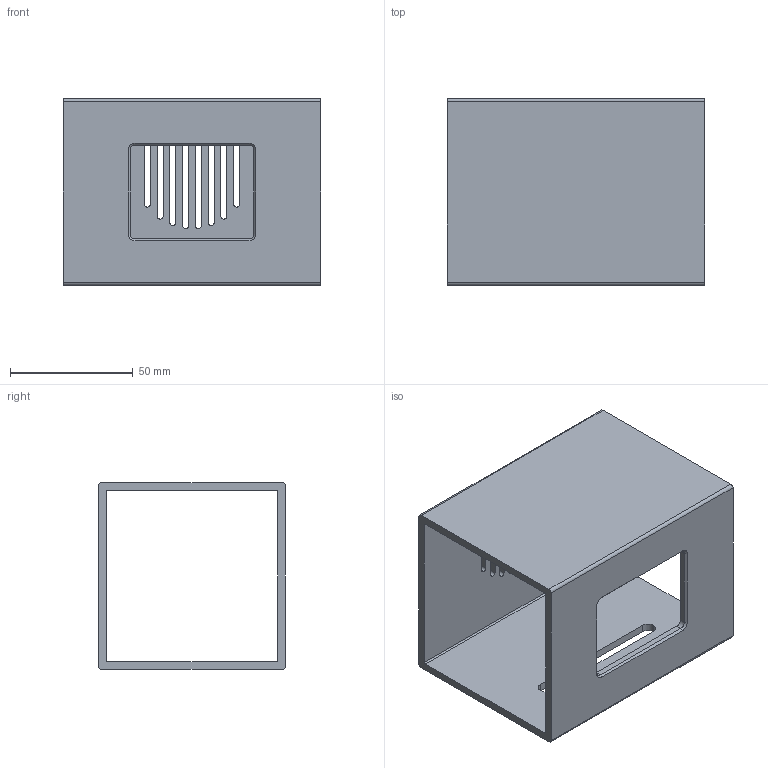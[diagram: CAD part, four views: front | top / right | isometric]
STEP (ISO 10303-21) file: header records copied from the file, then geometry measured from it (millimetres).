
FILE_DESCRIPTION(('Open CASCADE Model'),'2;1');
FILE_NAME('Open CASCADE Shape Model','2026-09-29T12:48:04',('Author'),( 'Open CASCADE'),'Open CASCADE STEP processor 7.9','Open CASCADE 7.9' ,'Unknown');
FILE_SCHEMA(('AUTOMOTIVE_DESIGN { 1 0 10303 214 1 1 1 1 }'));
Length unit declared in the file: millimetre
Products named in the file (1): Open CASCADE STEP translator 7.9 18
Bounding box: 105 x 76.2 x 76.2 mm (x, y, z)
Volume: 87549.2 mm3; surface area: 59720.3 mm2
Topology: 1 solids, 1 shells, 106 faces, 304 edges, 200 vertices
Faces by surface type: plane 54, cylinder 48, cone 4
Entity records: 7318 total; most frequent: CARTESIAN_POINT 1427, DIRECTION 1038, ORIENTED_EDGE 608, PCURVE 608, DEFINITIONAL_REPRESENTATION 608, LINE 532, VECTOR 532, EDGE_CURVE 304
